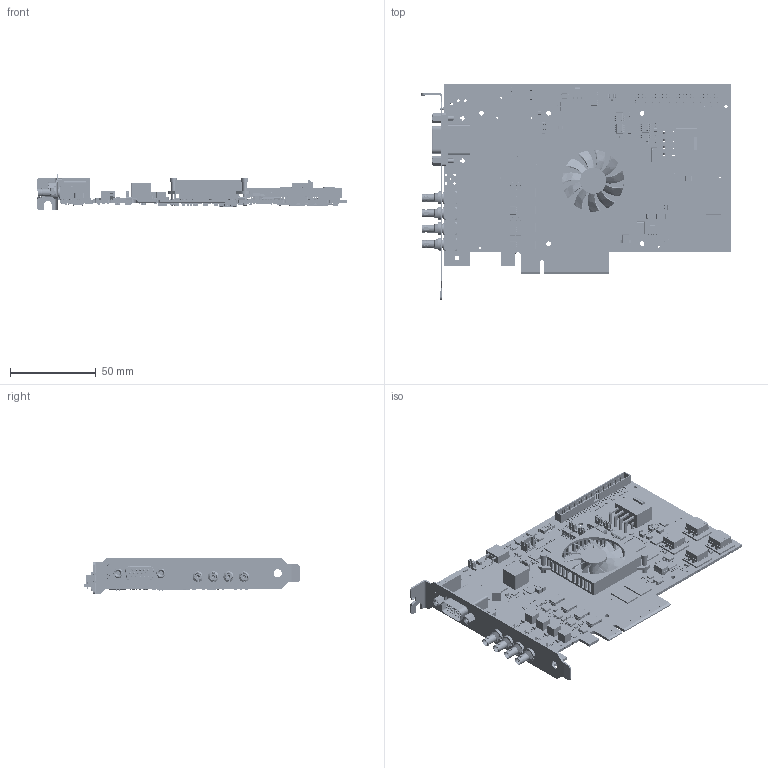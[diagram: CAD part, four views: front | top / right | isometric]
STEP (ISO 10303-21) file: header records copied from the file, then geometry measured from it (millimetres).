
FILE_DESCRIPTION( ( 'Unknown' ), '1' );
FILE_NAME( 'Q:/2003/Product3DCADModels/mm-ap20c13-0091-0101.stp', 'Unknown', ( 'Unknown' ), ( 'Unknown' ), 'PSStep 17.0.49', 'Unknown', ' ' );
FILE_SCHEMA( ( 'AUTOMOTIVE_DESIGN { 1 0 10303 214 1 1 1 1 }' ) );
Length unit declared in the file: millimetre
Products named in the file (979): SW3dPS-TO263-3S_453494353; SW3dPS-TO263-3S_Extruded15; SW3dPS-TO263-3S_453496017; SW3dPS-TO263-3S_Extruded18; SW3dPS-TO263-3S_453494225; SW3dPS-TO263-3S_Extruded17; SW3dPS-TO263-3S_Free-Models8; SW3dPS-TO263-3S_Free-Models9; SW3dPS-TO263-3S_BODY4; SW3dPS-TO263-3S_Board7; SW3dPS-TO263-3S_453496145; SW3dPS-TO263-3S_Extruded13; SW3dPS-TO263-3S_BODY5; SW3dPS-TO263-3S_Board6; SW3dPS-TO263-3S_Free-Models7; SW3dPS-TO263-3S_Free-Models6; SW3dPS-TO263-3S_450156369; SW3dPS-TO263-3S_Extruded16; SW3dPS-TO263-3S_450155985; SW3dPS-TO263-3S_Extruded14; SW3dPS-TO263-3S_BODY3; SW3dPS-TO263-3S_Board8; SW3dPS-TO263-3S_PIN1; SW3dPS-TO263-3S_Board5; SW3dPS-TO263-3S_449923505; SW3dPS-TO263-3S_Cylinder1; M16A_ASM_24_ASM; BODY_M16A_17; LEAD_M16A_42; Pin_Shape; Open_CASCADE_STEP_translator_6.8_16.4.1; Body-2; Open_CASCADE_STEP_translator_6.8_22.2.1; SW3dPS-TO263-3S_Free-Models5; Body-1; Open_CASCADE_STEP_translator_6.8_16.2.1; Body-3; Open_CASCADE_STEP_translator_6.8_17.2.1; Pin_Shape-2; Open_CASCADE_STEP_translator_6.8_17.4.1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
Assembly tree (4297 placements, depth 11):
  Assem1
    L3-699-1-8
    pcbracket-0365-01
    G-085-530T  x2
    bnc-nut  x4
    G-493-243U  x5
    ZF5S-10-01-X-WT  x2
    L3-711
    L3-92  x5
    Board
      Open CASCADE STEP translator 6.8 2.1.1
        Open CASCADE STEP translator 6.8 2.1.1.1
    U61
      User_Library-SOT363-2
    R44
      CR1005-0402
      CR1005-0402
      CR1005-0402
      CR1005-0402
    C339
      CR1005-0402
      CR1005-0402
      CR1005-0402
      CR1005-0402
    R282
      CR1005-0402
      CR1005-0402
      CR1005-0402
      CR1005-0402
    U1
      5697687200
        ball  x1156
        Open_CASCADE_STEP_translator_6.8_8.1
        Body
          Open_CASCADE_STEP_translator_6.8_8.2.1
    R76
      CR1005-0402
      CR1005-0402
      CR1005-0402
      CR1005-0402
    C1
      CR1005-0402
      CR1005-0402
      CR1005-0402
      CR1005-0402
    C2
      CR1005-0402
      CR1005-0402
      CR1005-0402
      CR1005-0402
    C3
      CR1005-0402
      CR1005-0402
      CR1005-0402
      CR1005-0402
    C4
      CR1005-0402
      CR1005-0402
      CR1005-0402
      CR1005-0402
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Bounding box: 181.14 x 126.38 x 21.48 mm (x, y, z)
Surface area: 89604.4 mm2 (no closed solid volume)
Topology: 0 solids, 42022 shells, 42022 faces, 208185 edges, 205062 vertices
Faces by surface type: plane 35612, cylinder 4151, sphere 1830, cone 131, extrusion 128, torus 93, bspline 77
Full cylindrical faces by diameter (mm): 0.122 x1, 0.159 x8, 0.164 x7, 0.206 x4, 0.432 x6, 0.45 x480, 0.5 x9, 0.519 x1, 0.527 x2, 0.6 x21, 0.7 x2, 0.76 x5, 0.8 x18, 1 x33, 1.02 x2, 1.1 x4, 1.194 x2, 1.25 x16, 1.4 x8, 1.45 x21, 1.5 x10, 1.7 x4, 1.8 x24, 1.9 x1, 2 x4, 2.156 x2, 2.7 x6, 2.8 x2, 2.84 x2, 3 x9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
Entity records: 571667 total; most frequent: CARTESIAN_POINT 112641, DIRECTION 80070, VERTEX_POINT 45450, ORIENTED_EDGE 45448, EDGE_CURVE 45448, VECTOR 36980, LINE 36948, AXIS2_PLACEMENT_3D 21545
